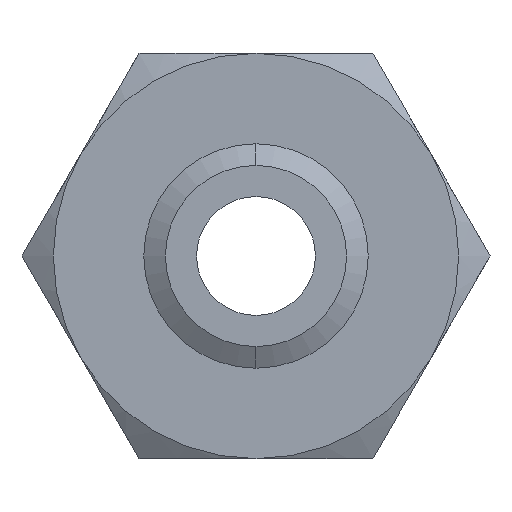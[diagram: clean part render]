
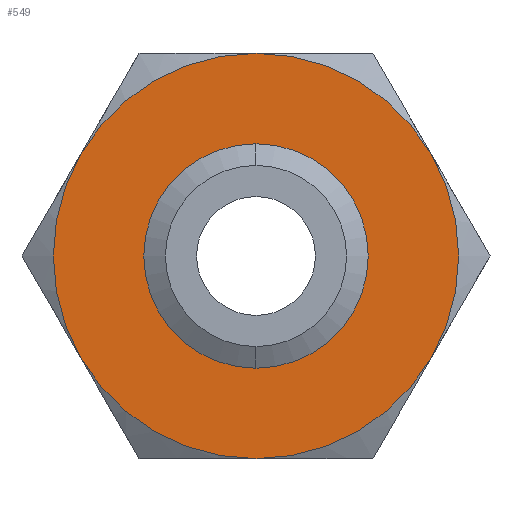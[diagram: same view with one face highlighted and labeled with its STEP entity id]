
A CAD part, front view. The second image highlights one B-rep face of the part: STEP entity #549.
In plain terms, the highlighted planar face has unit normal (0, -1, 0).
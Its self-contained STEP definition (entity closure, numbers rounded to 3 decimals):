
#213 = VERTEX_POINT ( 'NONE', #1020 ) ;
#214 = EDGE_CURVE ( 'NONE', #237, #538, #1018, .T. ) ;
#222 = ORIENTED_EDGE ( 'NONE', *, *, #238, .F. ) ;
#223 = ORIENTED_EDGE ( 'NONE', *, *, #224, .F. ) ;
#224 = EDGE_CURVE ( 'NONE', #542, #213, #1013, .T. ) ;
#230 = VERTEX_POINT ( 'NONE', #999 ) ;
#233 = EDGE_CURVE ( 'NONE', #230, #237, #991, .T. ) ;
#234 = EDGE_LOOP ( 'NONE', ( #531, #529 ) ) ;
#237 = VERTEX_POINT ( 'NONE', #1047 ) ;
#238 = EDGE_CURVE ( 'NONE', #213, #230, #1045, .T. ) ;
#247 = ORIENTED_EDGE ( 'NONE', *, *, #233, .F. ) ;
#361 = EDGE_CURVE ( 'NONE', #362, #363, #1257, .T. ) ;
#362 = VERTEX_POINT ( 'NONE', #1247 ) ;
#363 = VERTEX_POINT ( 'NONE', #1246 ) ;
#529 = ORIENTED_EDGE ( 'NONE', *, *, #530, .F. ) ;
#530 = EDGE_CURVE ( 'NONE', #363, #362, #1557, .T. ) ;
#531 = ORIENTED_EDGE ( 'NONE', *, *, #361, .F. ) ;
#537 = EDGE_CURVE ( 'NONE', #538, #539, #1599, .T. ) ;
#538 = VERTEX_POINT ( 'NONE', #1594 ) ;
#539 = VERTEX_POINT ( 'NONE', #1593 ) ;
#540 = ORIENTED_EDGE ( 'NONE', *, *, #537, .F. ) ;
#542 = VERTEX_POINT ( 'NONE', #1592 ) ;
#543 = ORIENTED_EDGE ( 'NONE', *, *, #214, .F. ) ;
#549 = ADVANCED_FACE ( 'NONE', ( #1580, #1579 ), #1578, .F. ) ;
#550 = EDGE_LOOP ( 'NONE', ( #551, #540, #543, #247, #222, #223 ) ) ;
#551 = ORIENTED_EDGE ( 'NONE', *, *, #566, .F. ) ;
#566 = EDGE_CURVE ( 'NONE', #539, #542, #1619, .T. ) ;
#991 = CIRCLE ( 'NONE', #1051, 32.5 ) ;
#999 = CARTESIAN_POINT ( 'NONE',  ( 0., 0., -32.5 ) ) ;
#1009 = DIRECTION ( 'NONE',  ( 0., 0., 1. ) ) ;
#1010 = DIRECTION ( 'NONE',  ( 0., 1., 0. ) ) ;
#1011 = CARTESIAN_POINT ( 'NONE',  ( 0., 0., 0. ) ) ;
#1012 = AXIS2_PLACEMENT_3D ( 'NONE', #1011, #1010, #1009 ) ;
#1013 = CIRCLE ( 'NONE', #1012, 32.5 ) ;
#1014 = DIRECTION ( 'NONE',  ( 0., 0., 1. ) ) ;
#1015 = DIRECTION ( 'NONE',  ( 0., 1., 0. ) ) ;
#1016 = CARTESIAN_POINT ( 'NONE',  ( 0., 0., 0. ) ) ;
#1017 = AXIS2_PLACEMENT_3D ( 'NONE', #1016, #1015, #1014 ) ;
#1018 = CIRCLE ( 'NONE', #1017, 32.5 ) ;
#1020 = CARTESIAN_POINT ( 'NONE',  ( 28.146, 0., -16.25 ) ) ;
#1041 = DIRECTION ( 'NONE',  ( 0., 0., 1. ) ) ;
#1042 = DIRECTION ( 'NONE',  ( 0., 1., 0. ) ) ;
#1043 = CARTESIAN_POINT ( 'NONE',  ( 0., 0., 0. ) ) ;
#1044 = AXIS2_PLACEMENT_3D ( 'NONE', #1043, #1042, #1041 ) ;
#1045 = CIRCLE ( 'NONE', #1044, 32.5 ) ;
#1047 = CARTESIAN_POINT ( 'NONE',  ( -28.146, 0., -16.25 ) ) ;
#1048 = DIRECTION ( 'NONE',  ( 0., 0., 1. ) ) ;
#1049 = DIRECTION ( 'NONE',  ( 0., 1., 0. ) ) ;
#1050 = CARTESIAN_POINT ( 'NONE',  ( 0., 0., 0. ) ) ;
#1051 = AXIS2_PLACEMENT_3D ( 'NONE', #1050, #1049, #1048 ) ;
#1246 = CARTESIAN_POINT ( 'NONE',  ( 0., 0., 14.536 ) ) ;
#1247 = CARTESIAN_POINT ( 'NONE',  ( 0., 0., -14.536 ) ) ;
#1248 = DIRECTION ( 'NONE',  ( 0., 0., -1. ) ) ;
#1249 = DIRECTION ( 'NONE',  ( 0., -1., 0. ) ) ;
#1250 = CARTESIAN_POINT ( 'NONE',  ( 0., 0., 0. ) ) ;
#1251 = AXIS2_PLACEMENT_3D ( 'NONE', #1250, #1249, #1248 ) ;
#1257 = CIRCLE ( 'NONE', #1251, 14.536 ) ;
#1550 = DIRECTION ( 'NONE',  ( 0., 0., -1. ) ) ;
#1551 = DIRECTION ( 'NONE',  ( 0., -1., 0. ) ) ;
#1552 = CARTESIAN_POINT ( 'NONE',  ( 0., 0., 0. ) ) ;
#1553 = AXIS2_PLACEMENT_3D ( 'NONE', #1552, #1551, #1550 ) ;
#1557 = CIRCLE ( 'NONE', #1553, 14.536 ) ;
#1577 = AXIS2_PLACEMENT_3D ( 'NONE', #1641, #1640, #1639 ) ;
#1578 = PLANE ( 'NONE',  #1577 ) ;
#1579 = FACE_BOUND ( 'NONE', #234, .T. ) ;
#1580 = FACE_OUTER_BOUND ( 'NONE', #550, .T. ) ;
#1592 = CARTESIAN_POINT ( 'NONE',  ( 28.146, 0., 16.25 ) ) ;
#1593 = CARTESIAN_POINT ( 'NONE',  ( 0., 0., 32.5 ) ) ;
#1594 = CARTESIAN_POINT ( 'NONE',  ( -28.146, 0., 16.25 ) ) ;
#1595 = DIRECTION ( 'NONE',  ( 0., 0., 1. ) ) ;
#1596 = DIRECTION ( 'NONE',  ( 0., 1., 0. ) ) ;
#1597 = CARTESIAN_POINT ( 'NONE',  ( 0., 0., 0. ) ) ;
#1598 = AXIS2_PLACEMENT_3D ( 'NONE', #1597, #1596, #1595 ) ;
#1599 = CIRCLE ( 'NONE', #1598, 32.5 ) ;
#1615 = DIRECTION ( 'NONE',  ( 0., 0., 1. ) ) ;
#1616 = DIRECTION ( 'NONE',  ( 0., 1., 0. ) ) ;
#1617 = CARTESIAN_POINT ( 'NONE',  ( 0., 0., 0. ) ) ;
#1618 = AXIS2_PLACEMENT_3D ( 'NONE', #1617, #1616, #1615 ) ;
#1619 = CIRCLE ( 'NONE', #1618, 32.5 ) ;
#1639 = DIRECTION ( 'NONE',  ( 0., 0., 1. ) ) ;
#1640 = DIRECTION ( 'NONE',  ( 0., 1., 0. ) ) ;
#1641 = CARTESIAN_POINT ( 'NONE',  ( 18.764, 0., -32.5 ) ) ;
